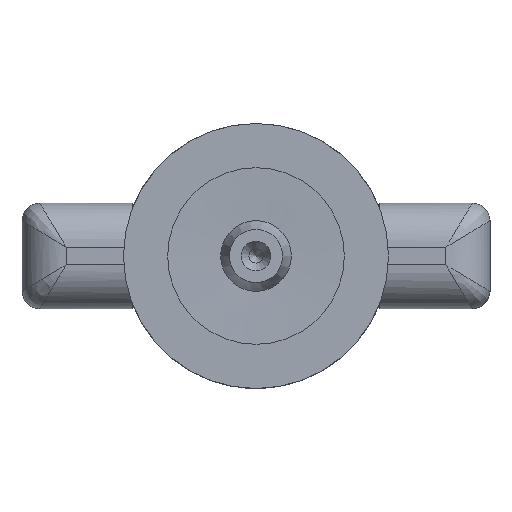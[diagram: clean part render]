
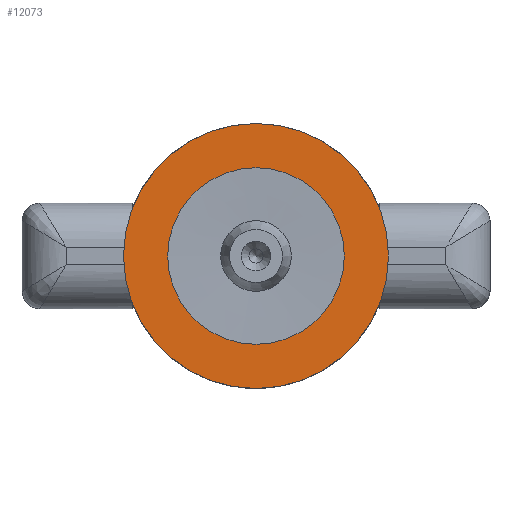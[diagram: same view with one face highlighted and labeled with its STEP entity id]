
A CAD part, front view. The second image highlights one B-rep face of the part: STEP entity #12073.
In plain terms, the highlighted planar face has unit normal (0, -1, 0) as drawn and (0, 0, -1) by its records, which use the part's own axes.
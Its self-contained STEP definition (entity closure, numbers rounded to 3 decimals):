
#318=FACE_BOUND('',#4514,.T.);
#642=PLANE('',#12928);
#3733=FACE_OUTER_BOUND('',#4513,.T.);
#4513=EDGE_LOOP('',(#11363));
#4514=EDGE_LOOP('',(#11364));
#4784=CIRCLE('',#12911,15.);
#4791=CIRCLE('',#12925,10.);
#5962=VERTEX_POINT('',#40448);
#5969=VERTEX_POINT('',#40469);
#7761=EDGE_CURVE('',#5962,#5962,#4784,.T.);
#7768=EDGE_CURVE('',#5969,#5969,#4791,.T.);
#11363=ORIENTED_EDGE('',*,*,#7761,.T.);
#11364=ORIENTED_EDGE('',*,*,#7768,.F.);
#12073=ADVANCED_FACE('',(#3733,#318),#642,.F.);
#12911=AXIS2_PLACEMENT_3D('',#40449,#15153,#15154);
#12925=AXIS2_PLACEMENT_3D('',#40470,#15181,#15182);
#12928=AXIS2_PLACEMENT_3D('',#40474,#15187,#15188);
#15153=DIRECTION('center_axis',(0.,0.,-1.));
#15154=DIRECTION('ref_axis',(-1.,0.,0.));
#15181=DIRECTION('center_axis',(0.,0.,-1.));
#15182=DIRECTION('ref_axis',(-1.,0.,0.));
#15187=DIRECTION('center_axis',(0.,0.,1.));
#15188=DIRECTION('ref_axis',(1.,0.,0.));
#40448=CARTESIAN_POINT('',(15.,0.,0.));
#40449=CARTESIAN_POINT('Origin',(0.,0.,0.));
#40469=CARTESIAN_POINT('',(10.,0.,0.));
#40470=CARTESIAN_POINT('Origin',(0.,0.,0.));
#40474=CARTESIAN_POINT('Origin',(0.,0.,0.));
